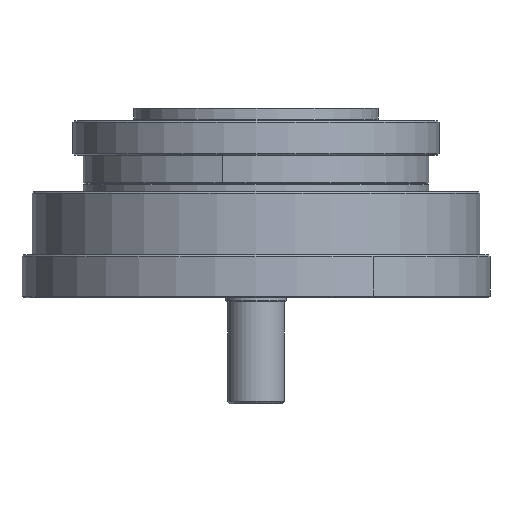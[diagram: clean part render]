
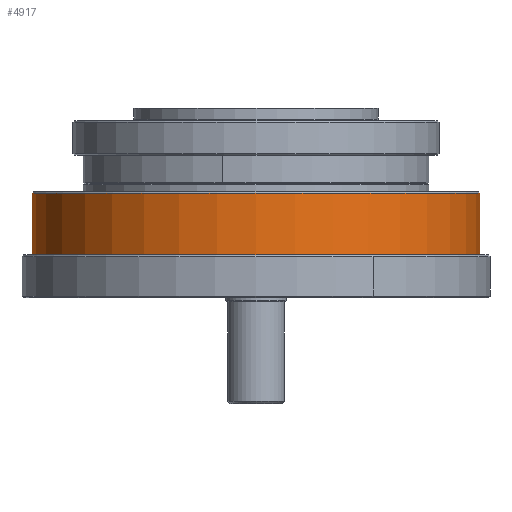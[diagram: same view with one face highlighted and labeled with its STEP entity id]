
A CAD part, front view. The second image highlights one B-rep face of the part: STEP entity #4917.
In plain terms, the highlighted cylindrical face has radius 55 mm (diameter 110 mm), a partial arc.
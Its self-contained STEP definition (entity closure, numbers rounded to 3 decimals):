
#37 = EDGE_CURVE ( 'NONE', #366, #5948, #2947, .T. ) ;
#68 = ORIENTED_EDGE ( 'NONE', *, *, #3083, .T. ) ;
#331 = CIRCLE ( 'NONE', #5736, 55. ) ;
#366 = VERTEX_POINT ( 'NONE', #3863 ) ;
#508 = ORIENTED_EDGE ( 'NONE', *, *, #584, .T. ) ;
#584 = EDGE_CURVE ( 'NONE', #5948, #5557, #5421, .T. ) ;
#744 = DIRECTION ( 'NONE',  ( 0., 0., -1. ) ) ;
#899 = CARTESIAN_POINT ( 'NONE',  ( -60.657, -5.186, 120.35 ) ) ;
#1174 = CARTESIAN_POINT ( 'NONE',  ( -5.657, -5.186, 99.95 ) ) ;
#1182 = DIRECTION ( 'NONE',  ( 0., 0., 1. ) ) ;
#1205 = DIRECTION ( 'NONE',  ( 1., 0., 0. ) ) ;
#1279 = VERTEX_POINT ( 'NONE', #6790 ) ;
#1353 = AXIS2_PLACEMENT_3D ( 'NONE', #1783, #4961, #5552 ) ;
#1783 = CARTESIAN_POINT ( 'NONE',  ( -5.657, -5.186, 120.35 ) ) ;
#2220 = AXIS2_PLACEMENT_3D ( 'NONE', #5942, #5850, #2532 ) ;
#2532 = DIRECTION ( 'NONE',  ( 1., 0., 0. ) ) ;
#2947 = CIRCLE ( 'NONE', #2220, 55. ) ;
#3083 = EDGE_CURVE ( 'NONE', #5557, #1279, #331, .T. ) ;
#3100 = CARTESIAN_POINT ( 'NONE',  ( 49.343, -5.186, 120.35 ) ) ;
#3355 = DIRECTION ( 'NONE',  ( 0., 0., -1. ) ) ;
#3863 = CARTESIAN_POINT ( 'NONE',  ( 49.343, -5.186, 118.05 ) ) ;
#4917 = ADVANCED_FACE ( 'NONE', ( #9667 ), #9419, .T. ) ;
#4961 = DIRECTION ( 'NONE',  ( 0., 0., -1. ) ) ;
#5038 = CARTESIAN_POINT ( 'NONE',  ( -60.657, -5.186, 118.05 ) ) ;
#5220 = EDGE_LOOP ( 'NONE', ( #8924, #7324, #508, #68 ) ) ;
#5421 = LINE ( 'NONE', #899, #6021 ) ;
#5552 = DIRECTION ( 'NONE',  ( -1., 0., 0. ) ) ;
#5557 = VERTEX_POINT ( 'NONE', #8073 ) ;
#5736 = AXIS2_PLACEMENT_3D ( 'NONE', #1174, #1182, #1205 ) ;
#5850 = DIRECTION ( 'NONE',  ( 0., 0., -1. ) ) ;
#5942 = CARTESIAN_POINT ( 'NONE',  ( -5.657, -5.186, 118.05 ) ) ;
#5948 = VERTEX_POINT ( 'NONE', #5038 ) ;
#6021 = VECTOR ( 'NONE', #744, 1000. ) ;
#6658 = VECTOR ( 'NONE', #3355, 1000. ) ;
#6673 = LINE ( 'NONE', #3100, #6658 ) ;
#6777 = EDGE_CURVE ( 'NONE', #366, #1279, #6673, .T. ) ;
#6790 = CARTESIAN_POINT ( 'NONE',  ( 49.343, -5.186, 99.95 ) ) ;
#7324 = ORIENTED_EDGE ( 'NONE', *, *, #37, .T. ) ;
#8073 = CARTESIAN_POINT ( 'NONE',  ( -60.657, -5.186, 99.95 ) ) ;
#8924 = ORIENTED_EDGE ( 'NONE', *, *, #6777, .F. ) ;
#9419 = CYLINDRICAL_SURFACE ( 'NONE', #1353, 55. ) ;
#9667 = FACE_OUTER_BOUND ( 'NONE', #5220, .T. ) ;
